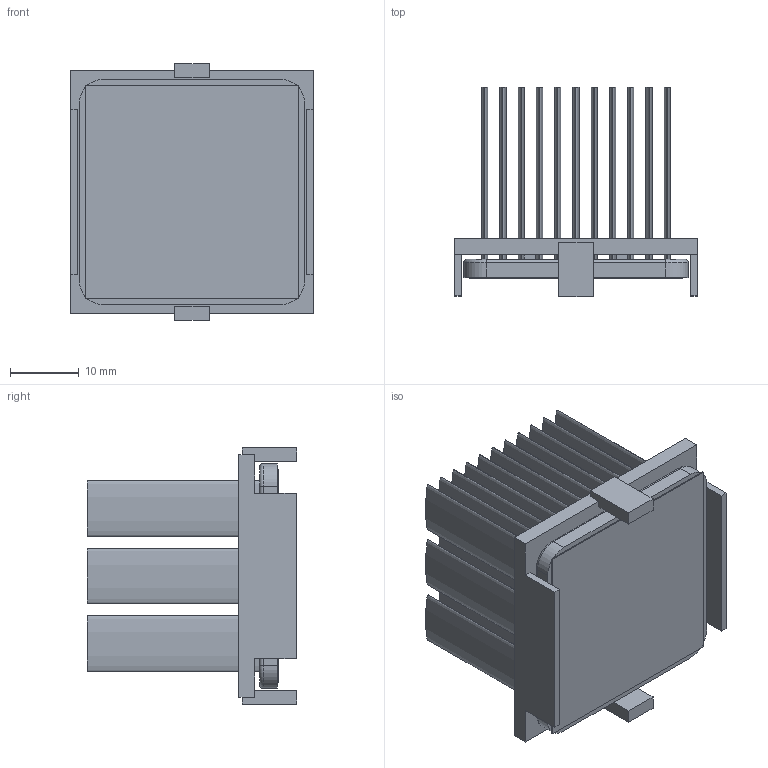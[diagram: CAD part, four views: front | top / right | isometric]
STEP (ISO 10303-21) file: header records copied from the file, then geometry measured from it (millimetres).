
FILE_DESCRIPTION (( 'STEP AP214' ), '1' );
FILE_NAME ('INM33001-28W-2.6K33.STEP', '2023-02-20T19:10:02', ( '' ), ( '' ), 'SwSTEP 2.0', 'SolidWorks 2020', '' );
FILE_SCHEMA (( 'AUTOMOTIVE_DESIGN' ));
Length unit declared in the file: inch
Products named in the file (1): INM33001-28W-2.6K33
Bounding box: 35.2 x 30.4 x 37.2 mm (x, y, z)
Volume: 9608 mm3; surface area: 20343.5 mm2
Topology: 3 solids, 3 shells, 177 faces, 406 edges, 268 vertices
Faces by surface type: plane 99, bspline 66, cylinder 8, torus 4
Entity records: 7461 total; most frequent: CARTESIAN_POINT 1710, ORIENTED_EDGE 812, DIRECTION 518, EDGE_CURVE 406, VERTEX_POINT 268, VECTOR 254, LINE 254, EDGE_LOOP 212
